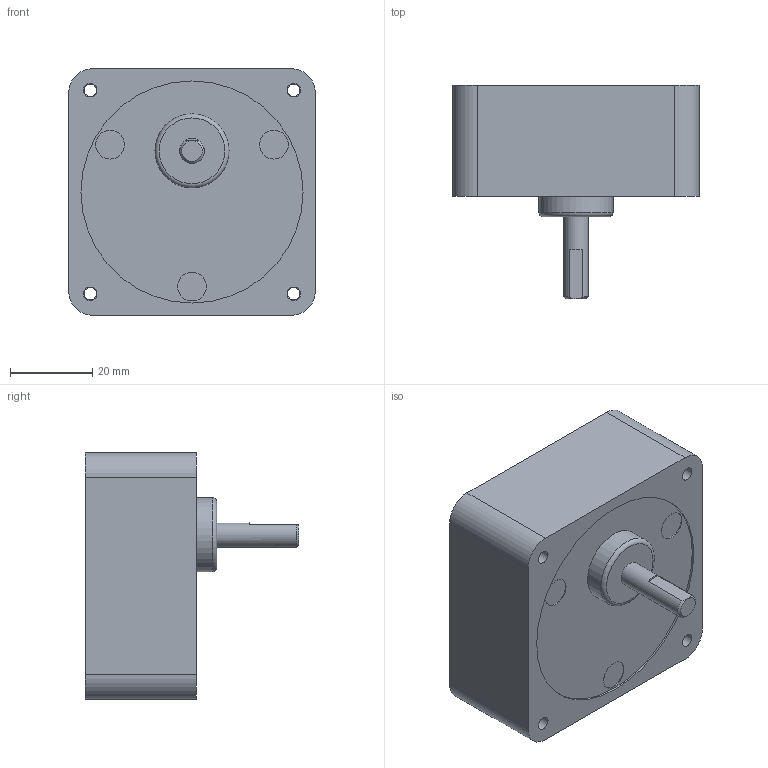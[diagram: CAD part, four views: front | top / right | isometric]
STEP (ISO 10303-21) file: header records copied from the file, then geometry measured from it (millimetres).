
FILE_DESCRIPTION((''),'2;1');
FILE_NAME('\\Servert1600\threepeace\2015homepage\STP\HP-Data_Gearhead_3D_STEP\CE-ギアヘッド単品.stp','2016-11-17T11:56:25',('Administrator'),(''),'Autodesk Inventor 2010','Autodesk Inventor 2010','');
FILE_SCHEMA(('AUTOMOTIVE_DESIGN { 1 0 10303 214 1 1 1 1 }'));
Length unit declared in the file: millimetre
Products named in the file (1): CE-ギアヘッド単品
Bounding box: 60 x 52 x 60 mm (x, y, z)
Volume: 91524.5 mm3; surface area: 15525.8 mm2
Topology: 1 solids, 1 shells, 40 faces, 91 edges, 60 vertices
Faces by surface type: plane 15, bspline 12, cylinder 11, cone 1, torus 1
Full cylindrical faces by diameter (mm): 6 x1, 7 x3, 18 x1, 45 x1, 54 x1
Entity records: 1161 total; most frequent: CARTESIAN_POINT 362, DIRECTION 159, ORIENTED_EDGE 124, EDGE_LOOP 75, AXIS2_PLACEMENT_3D 70, EDGE_CURVE 62, VERTEX_POINT 51, CIRCLE 41
